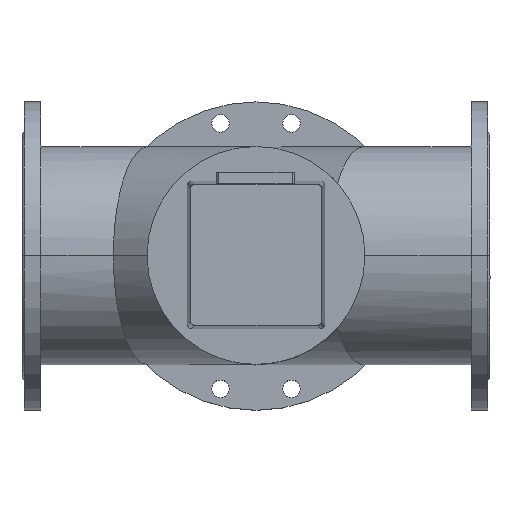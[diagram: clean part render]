
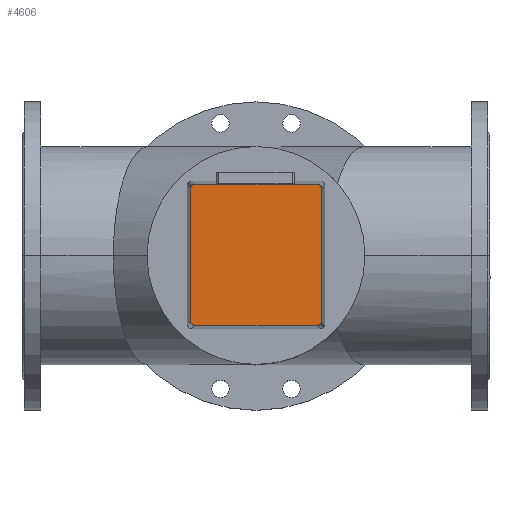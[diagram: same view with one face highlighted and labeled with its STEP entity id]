
A CAD part, top view. The second image highlights one B-rep face of the part: STEP entity #4606.
In plain terms, the highlighted planar face has unit normal (0, 0, 1).
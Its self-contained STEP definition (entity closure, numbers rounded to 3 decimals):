
#341=LINE('',#7887,#603);
#342=LINE('',#7891,#604);
#343=LINE('',#7895,#605);
#344=LINE('',#7899,#606);
#603=VECTOR('',#6457,304.8);
#604=VECTOR('',#6460,304.8);
#605=VECTOR('',#6463,304.8);
#606=VECTOR('',#6466,304.8);
#1115=FACE_OUTER_BOUND('',#1441,.T.);
#1441=EDGE_LOOP('',(#3797,#3798,#3799,#3800,#3801,#3802,#3803,#3804));
#1785=CIRCLE('',#5159,6.);
#1786=CIRCLE('',#5160,6.);
#1787=CIRCLE('',#5161,6.);
#1788=CIRCLE('',#5162,6.);
#2168=VERTEX_POINT('',#7885);
#2169=VERTEX_POINT('',#7886);
#2170=VERTEX_POINT('',#7888);
#2171=VERTEX_POINT('',#7890);
#2172=VERTEX_POINT('',#7892);
#2173=VERTEX_POINT('',#7894);
#2174=VERTEX_POINT('',#7896);
#2175=VERTEX_POINT('',#7898);
#2728=EDGE_CURVE('',#2168,#2169,#341,.T.);
#2729=EDGE_CURVE('',#2169,#2170,#1785,.T.);
#2730=EDGE_CURVE('',#2170,#2171,#342,.T.);
#2731=EDGE_CURVE('',#2171,#2172,#1786,.T.);
#2732=EDGE_CURVE('',#2172,#2173,#343,.T.);
#2733=EDGE_CURVE('',#2173,#2174,#1787,.T.);
#2734=EDGE_CURVE('',#2174,#2175,#344,.T.);
#2735=EDGE_CURVE('',#2175,#2168,#1788,.T.);
#3797=ORIENTED_EDGE('',*,*,#2728,.T.);
#3798=ORIENTED_EDGE('',*,*,#2729,.T.);
#3799=ORIENTED_EDGE('',*,*,#2730,.T.);
#3800=ORIENTED_EDGE('',*,*,#2731,.T.);
#3801=ORIENTED_EDGE('',*,*,#2732,.T.);
#3802=ORIENTED_EDGE('',*,*,#2733,.T.);
#3803=ORIENTED_EDGE('',*,*,#2734,.T.);
#3804=ORIENTED_EDGE('',*,*,#2735,.T.);
#4158=PLANE('',#5158);
#4606=ADVANCED_FACE('',(#1115),#4158,.T.);
#5158=AXIS2_PLACEMENT_3D('',#7884,#6455,#6456);
#5159=AXIS2_PLACEMENT_3D('',#7889,#6458,#6459);
#5160=AXIS2_PLACEMENT_3D('',#7893,#6461,#6462);
#5161=AXIS2_PLACEMENT_3D('',#7897,#6464,#6465);
#5162=AXIS2_PLACEMENT_3D('',#7900,#6467,#6468);
#6455=DIRECTION('center_axis',(0.,0.,1.));
#6456=DIRECTION('ref_axis',(0.,-1.,0.));
#6457=DIRECTION('',(0.,-1.,0.));
#6458=DIRECTION('center_axis',(0.,0.,1.));
#6459=DIRECTION('ref_axis',(1.,0.,0.));
#6460=DIRECTION('',(1.,0.,0.));
#6461=DIRECTION('center_axis',(0.,0.,1.));
#6462=DIRECTION('ref_axis',(1.,0.,0.));
#6463=DIRECTION('',(0.,1.,0.));
#6464=DIRECTION('center_axis',(0.,0.,1.));
#6465=DIRECTION('ref_axis',(1.,0.,0.));
#6466=DIRECTION('',(-1.,0.,0.));
#6467=DIRECTION('center_axis',(0.,0.,1.));
#6468=DIRECTION('ref_axis',(1.,0.,0.));
#7884=CARTESIAN_POINT('Origin',(0.,0.,
692.));
#7885=CARTESIAN_POINT('',(-105.,91.5,692.));
#7886=CARTESIAN_POINT('',(-105.,-91.5,692.));
#7887=CARTESIAN_POINT('',(-105.,-91.5,692.));
#7888=CARTESIAN_POINT('',(-99.,-97.5,692.));
#7889=CARTESIAN_POINT('Origin',(-99.,-91.5,692.));
#7890=CARTESIAN_POINT('',(99.,-97.5,692.));
#7891=CARTESIAN_POINT('',(99.,-97.5,692.));
#7892=CARTESIAN_POINT('',(105.,-91.5,692.));
#7893=CARTESIAN_POINT('Origin',(99.,-91.5,692.));
#7894=CARTESIAN_POINT('',(105.,91.5,692.));
#7895=CARTESIAN_POINT('',(105.,91.5,692.));
#7896=CARTESIAN_POINT('',(99.,97.5,692.));
#7897=CARTESIAN_POINT('Origin',(99.,91.5,692.));
#7898=CARTESIAN_POINT('',(-99.,97.5,692.));
#7899=CARTESIAN_POINT('',(-99.,97.5,692.));
#7900=CARTESIAN_POINT('Origin',(-99.,91.5,692.));
